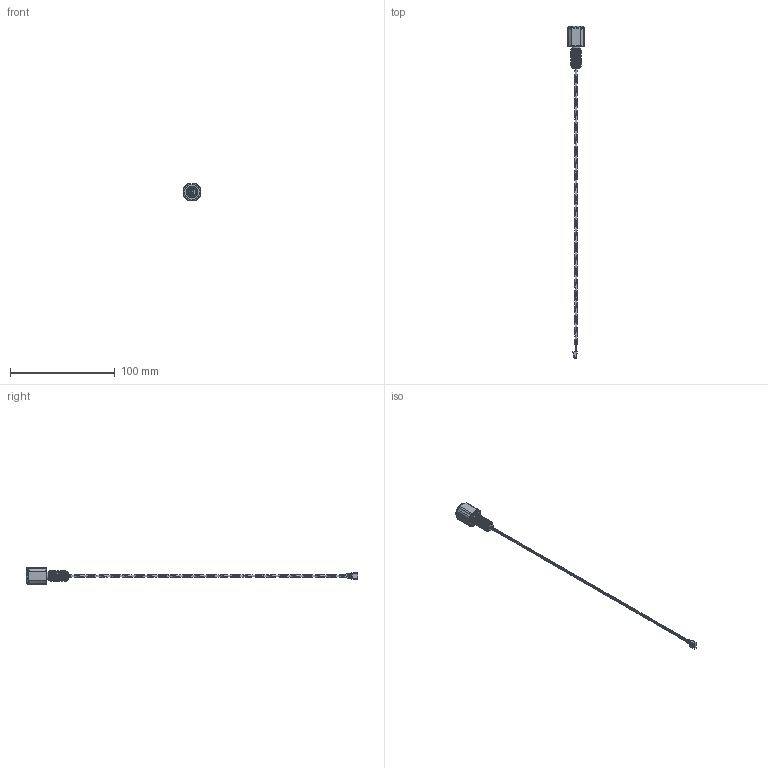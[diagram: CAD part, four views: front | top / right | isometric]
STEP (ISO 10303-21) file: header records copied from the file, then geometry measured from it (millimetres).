
FILE_DESCRIPTION (( 'STEP AP214' ), '1' );
FILE_NAME ('BAR-XT-ASM.STEP', '2025-07-07T22:00:34', ( '' ), ( '' ), 'SwSTEP 2.0', 'SolidWorks 2024', '' );
FILE_SCHEMA (( 'AUTOMOTIVE_DESIGN' ));
Length unit declared in the file: millimetre
Products named in the file (1): BAR-XT-ASM
Bounding box: 16 x 317.35 x 16 mm (x, y, z)
Surface area: 6174.3 mm2 (no closed solid volume)
Topology: 0 solids, 12 shells, 173 faces, 521 edges, 353 vertices
Faces by surface type: cylinder 78, plane 43, bspline 19, cone 18, torus 13, sphere 2
Entity records: 34574 total; most frequent: CARTESIAN_POINT 30210, ORIENTED_EDGE 931, DIRECTION 824, EDGE_CURVE 521, VERTEX_POINT 353, AXIS2_PLACEMENT_3D 306, LINE 212, VECTOR 212
